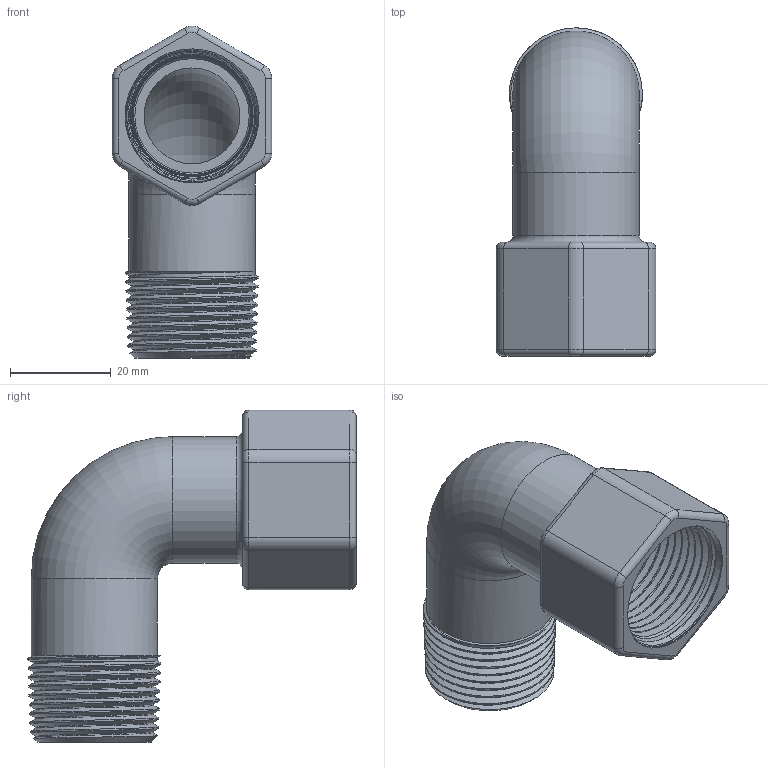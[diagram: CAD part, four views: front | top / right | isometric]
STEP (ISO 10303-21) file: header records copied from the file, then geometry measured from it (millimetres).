
FILE_DESCRIPTION(/* description */ ('Alibre Inc.'),/* implementation_level */ '2;1');
FILE_NAME(/* name */ 'export0',/* time_stamp */ '2016-11-29T11:50:36-05:00',/* author */ (''),/* organization */ (''),/* preprocessor_version */ 'ST-DEVELOPER v14',/* originating_system */ 'Alibre',/* authorisation */ '');
FILE_SCHEMA (('CONFIG_CONTROL_DESIGN'));
Length unit declared in the file: centimetre
Products named in the file (1): ID_2
Bounding box: 31.75 x 65.29 x 65.99 mm (x, y, z)
Volume: 23830.8 mm3; surface area: 16644 mm2
Topology: 1 solids, 1 shells, 112 faces, 296 edges, 188 vertices
Faces by surface type: cone 56, cylinder 23, torus 15, plane 12, bspline 6
Full cylindrical faces by diameter (mm): 19.05 x2, 25.146 x2
Entity records: 46281 total; most frequent: CARTESIAN_POINT 43729, ORIENTED_EDGE 564, DIRECTION 417, EDGE_CURVE 282, VERTEX_POINT 182, AXIS2_PLACEMENT_3D 178, EDGE_LOOP 122, FACE_BOUND 122
